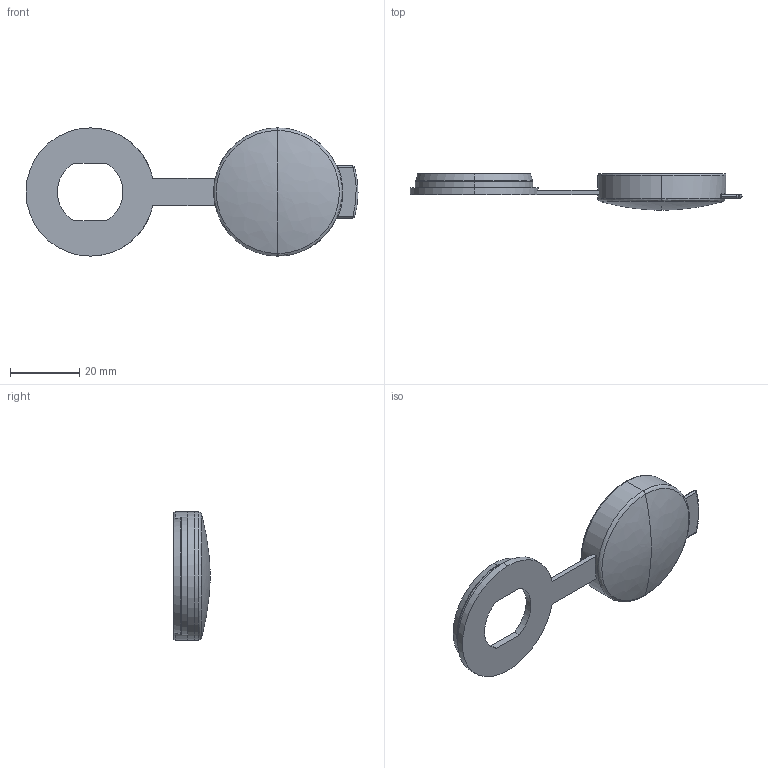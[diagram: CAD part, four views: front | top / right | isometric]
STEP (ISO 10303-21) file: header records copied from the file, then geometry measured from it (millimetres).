
FILE_DESCRIPTION (( 'STEP AP214' ), '1' );
FILE_NAME ('2.904.003.STEP', '2016-08-23T05:36:57', ( 'Krzysiek' ), ( '' ), 'SwSTEP 2.0', 'SolidWorks 2015', '' );
FILE_SCHEMA (( 'AUTOMOTIVE_DESIGN' ));
Length unit declared in the file: millimetre
Products named in the file (1): 2.904.003
Bounding box: 95.75 x 10.5 x 37 mm (x, y, z)
Volume: 3949.4 mm3; surface area: 7052.4 mm2
Topology: 1 solids, 1 shells, 60 faces, 139 edges, 82 vertices
Faces by surface type: bspline 21, cylinder 18, plane 17, cone 4
Entity records: 2114 total; most frequent: CARTESIAN_POINT 791, DIRECTION 272, ORIENTED_EDGE 270, EDGE_CURVE 135, AXIS2_PLACEMENT_3D 113, VERTEX_POINT 82, CIRCLE 73, EDGE_LOOP 67
